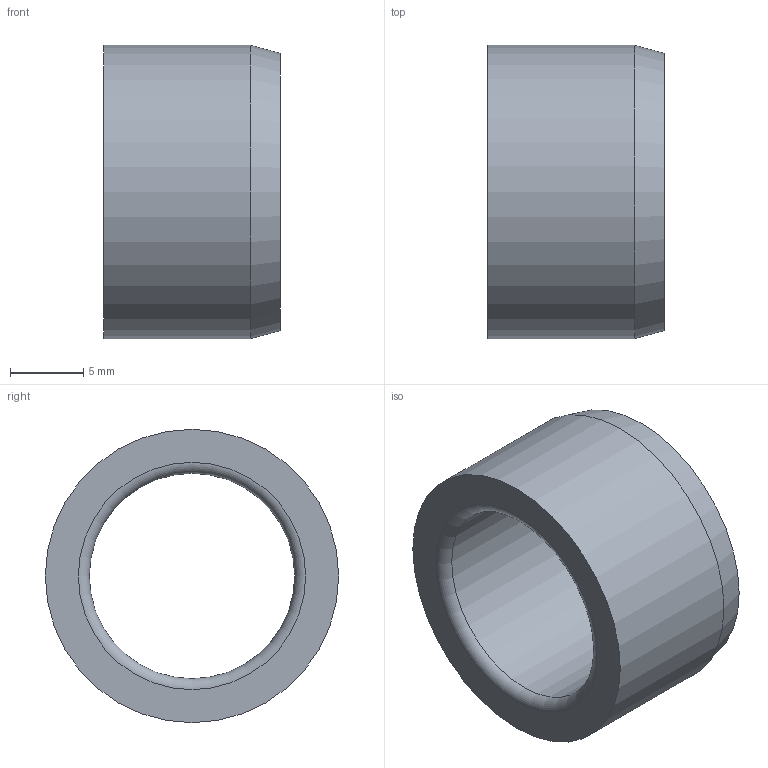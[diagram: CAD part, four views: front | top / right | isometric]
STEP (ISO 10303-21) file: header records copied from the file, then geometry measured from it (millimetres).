
FILE_DESCRIPTION(/* description */ ('Impex Ready, www.impex-ready.pl'),/* implementation_level */ '2;1');
FILE_NAME(/* name */ 'C:\Users\VIKKY\Nextcloud\SM\projekt 10 - części na stronę internetową\Pliki_3D_new\306 Tuleje BG04\306_BG04_STEP\BG04.142012.ipt.step',/* time_stamp */ '2021-12-17T16:28:40+01:00',/* author */ ('SM'),/* organization */ (''),/* preprocessor_version */ 'ST-DEVELOPER v18.1',/* originating_system */ 'Autodesk Inventor 2021',/* authorisation */ '');
FILE_SCHEMA (('AUTOMOTIVE_DESIGN { 1 0 10303 214 3 1 1 }'));
Length unit declared in the file: millimetre
Products named in the file (1): BG04.142012
Bounding box: 12 x 20 x 20 mm (x, y, z)
Volume: 1878.7 mm3; surface area: 1542.6 mm2
Topology: 1 solids, 1 shells, 7 faces, 14 edges, 9 vertices
Faces by surface type: torus 2, cylinder 2, plane 2, cone 1
Full cylindrical faces by diameter (mm): 14 x1, 20 x1
Entity records: 261 total; most frequent: DIRECTION 41, CARTESIAN_POINT 31, ORIENTED_EDGE 28, AXIS2_PLACEMENT_3D 19, EDGE_CURVE 14, CIRCLE 11, EDGE_LOOP 9, VERTEX_POINT 9
